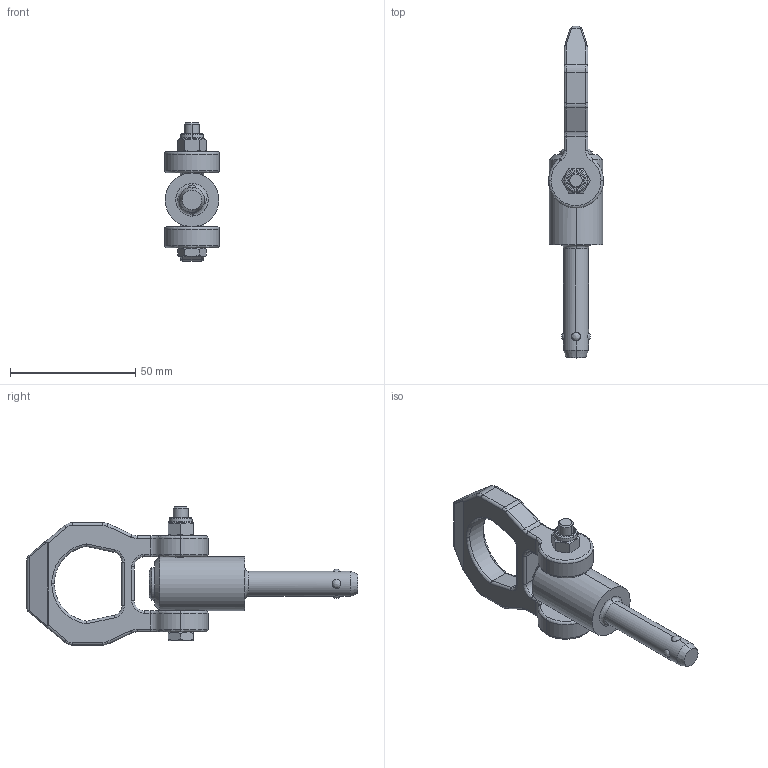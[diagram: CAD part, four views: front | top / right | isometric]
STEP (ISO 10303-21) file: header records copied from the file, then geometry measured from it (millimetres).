
FILE_DESCRIPTION (( 'STEP AP214' ), '1' );
FILE_NAME ('1130-10-35-NI.step', '2023-05-11T09:32:14', ( '' ), ( '' ), 'SwSTEP 2.0', 'SolidWorks 2022', '' );
FILE_SCHEMA (( 'AUTOMOTIVE_DESIGN' ));
Length unit declared in the file: millimetre
Products named in the file (3): Kopie von ring2^WB1130_NI; 1130-10-35-NI; Kopie von bolzen1^WB1130_NI_10-35-NI
Assembly tree (2 placements, depth 2):
  1130-10-35-NI
    Kopie von bolzen1^WB1130_NI_10-35-NI
    Kopie von ring2^WB1130_NI
Bounding box: 22 x 132.7 x 55.25 mm (x, y, z)
Volume: 35634.4 mm3; surface area: 12824.5 mm2
Topology: 2 solids, 2 shells, 244 faces, 607 edges, 375 vertices
Faces by surface type: plane 83, cylinder 77, bspline 54, cone 26, torus 4
Entity records: 9672 total; most frequent: CARTESIAN_POINT 4372, ORIENTED_EDGE 1214, DIRECTION 887, EDGE_CURVE 607, VERTEX_POINT 375, AXIS2_PLACEMENT_3D 329, EDGE_LOOP 258, ADVANCED_FACE 244
